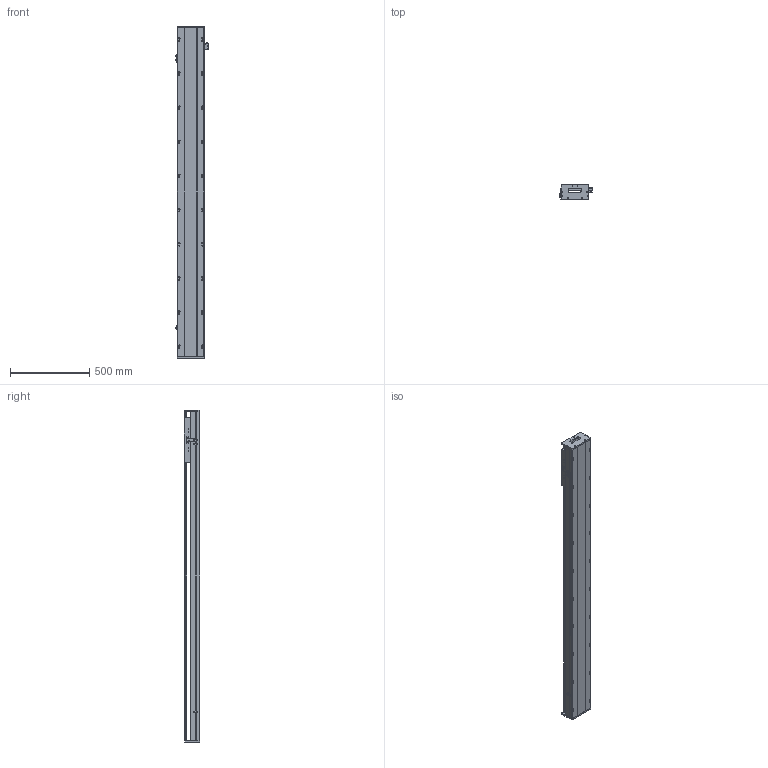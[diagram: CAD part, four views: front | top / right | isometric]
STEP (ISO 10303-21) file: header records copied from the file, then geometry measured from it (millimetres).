
FILE_DESCRIPTION (( 'STEP AP203' ), '1' );
FILE_NAME ('SKR17S-C2-S1720（简）.STEP', '2022-09-29T08:10:29', ( '' ), ( '' ), 'SwSTEP 2.0', 'SolidWorks 2018', '' );
FILE_SCHEMA (( 'CONFIG_CONTROL_DESIGN' ));
Length unit declared in the file: millimetre
Products named in the file (8): 感应片（SKR12S-14S-17S）; SKR17耜啣; SKR17滑台-280L（简）; 棠掑假蚾輸; EE-SX672; SKR17底座-C2-S1720（简); SIKO棠掑; SKR17S-C2-S1720（简）
Assembly tree (10 placements, depth 2):
  SKR17S-C2-S1720（简）
    SKR17底座-C2-S1720（简)
    SIKO棠掑
    EE-SX672  x3
    SKR17耜啣  x2
    棠掑假蚾輸
    SKR17滑台-280L（简）
    感应片（SKR12S-14S-17S）
Bounding box: 212.7 x 97 x 2100 mm (x, y, z)
Volume: 16493645.8 mm3; surface area: 2018166.8 mm2
Topology: 11 solids, 11 shells, 1288 faces, 3589 edges, 2303 vertices
Faces by surface type: cylinder 631, plane 523, cone 134
Entity records: 39715 total; most frequent: CARTESIAN_POINT 10527, ORIENTED_EDGE 6158, DIRECTION 5649, EDGE_CURVE 3079, AXIS2_PLACEMENT_3D 2009, VERTEX_POINT 2007, LINE 1631, VECTOR 1631
